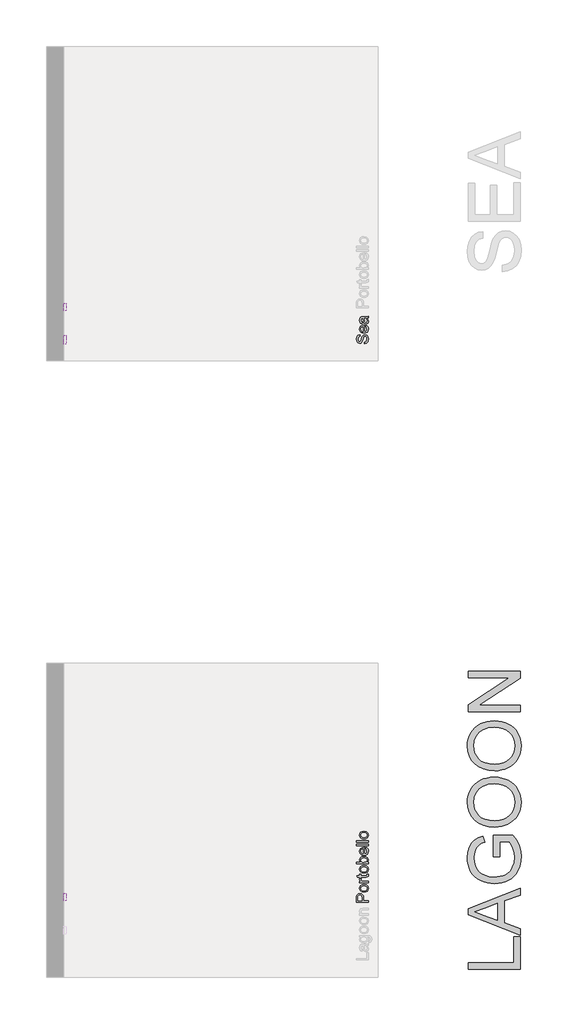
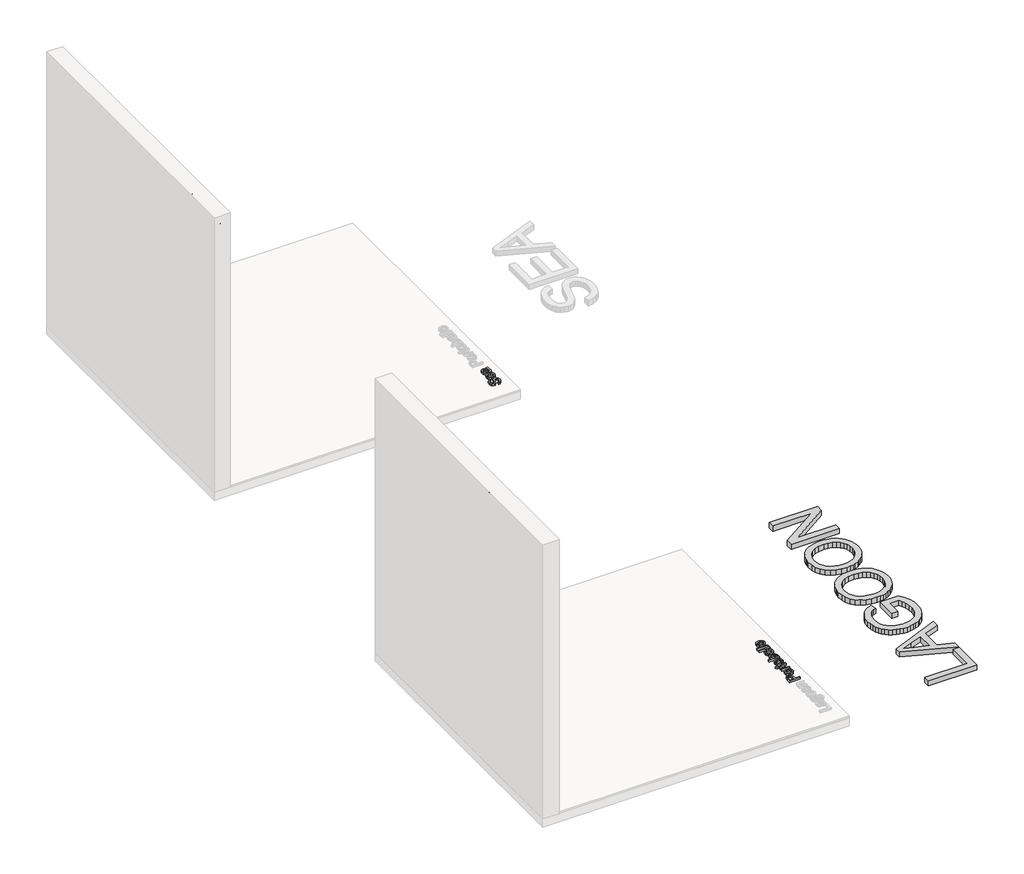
# One storey, part 6 of 7: 6 proxies.
"""IFC4 building model written with IfcOpenShell, lengths in millimetres."""

from ifc_helpers import new_model, si_unit, frame, origin, origin_with_axes, place, context, project, spatial, polyline, outline, extrude, element, save

model = new_model("IFC4")

# Units and contexts
model_context = context("Model", 3, world=origin())
ifc_project = project(units=[si_unit("LENGTHUNIT", "METRE", prefix="MILLI")], contexts=[model_context])

# Site, building, storey
site = spatial("IfcSite", under=ifc_project)
building = spatial("IfcBuilding", under=site)
storey = spatial("IfcBuildingStorey", under=building, Name="PORTOBELLO - SHOWROOM", Elevation=0.0)

# Proxies
placement = place(None, origin())
element("IfcBuildingElementProxy", 1, Name="10mm Arial", ObjectType="10mm Arial", at=placement, inside=storey, context=model_context, shape_type="SweptSolid", body=[
    extrude(outline(polyline([(8610.0316442, 2512.7580215), (8622.588683, 2512.7580215), (8626.635385, 2500.18872), (8636.5191479, 2492.2424689), (8651.5777842, 2489.2135739), (8664.6989087, 2491.506705), (8673.1724574, 2497.8097498), (8675.9560978, 2506.2342475), (8673.8714331, 2514.070134), (8665.3365709, 2519.7723049), (8647.0528357, 2524.5670336), (8627.371149, 2530.7597138), (8616.6903084, 2540.1039165), (8613.1709039, 2552.5873789), (8617.5241742, 2566.7998866), (8630.2406285, 2576.8308024), (8648.8554575, 2580.2521049), (8668.7210852, 2576.6713868), (8681.964837, 2566.1499618), (8686.9435067, 2550.4291379), (8674.3864679, 2550.4291379), (8672.0810741, 2557.9216678), (8667.2740827, 2563.3295332), (8649.3459668, 2567.6950662), (8631.3688, 2563.3785841), (8625.7279427, 2552.9552609), (8629.7255937, 2544.2487203), (8650.2288836, 2537.234437), (8672.4489561, 2530.9313921), (8684.6013247, 2520.7533236), (8688.5131365, 2506.5530786), (8684.0127135, 2491.5312304), (8671.0632672, 2480.568347), (8652.0682936, 2476.6565351), (8629.6397546, 2480.8749153), (8615.4517723, 2493.5791069), (8610.0316442, 2512.7580215)])), frame((74564.1689403, 0.0, 0.0), z_axis=(1.0, 0.0, 0.0), x_axis=(0.0, 1.0, 0.0)), (0.0, 0.0, 1.0), 20.0),
    extrude(outline(polyline([(8757.429697, 2500.2009828), (8769.7414811, 2498.6313529), (8765.3054374, 2489.3545953), (8758.2267746, 2482.4200197), (8748.6649084, 2478.0974062), (8736.7792543, 2476.6565351), (8722.0455804, 2479.1428042), (8710.7086836, 2486.6016117), (8703.4798024, 2498.5485795), (8701.0701753, 2514.4993297), (8703.5043279, 2530.9865744), (8710.8067855, 2543.3167526), (8721.9903981, 2551.0054863), (8736.0680158, 2553.5683975), (8749.7072408, 2551.0116177), (8760.6057449, 2543.3412781), (8767.7518526, 2531.0356253), (8770.1338885, 2514.5729061), (8770.0603121, 2511.1883917), (8713.6272141, 2511.1883917), (8715.8007835, 2501.7890067), (8720.8499639, 2494.8789566), (8728.1370931, 2490.6299195), (8737.024509, 2489.2135739), (8749.3362931, 2491.8377988), (8757.429697, 2500.2009828)]), holes=[polyline([(8713.6272141, 2523.7454305), (8757.5768498, 2523.7454305), (8752.5491292, 2535.1252469), (8745.2282775, 2539.5398308), (8736.0189649, 2541.0113588), (8720.5556583, 2536.314732), (8715.6904189, 2530.8240932), (8713.6272141, 2523.7454305)])]), frame((74564.1689403, 0.0, 0.0), z_axis=(1.0, 0.0, 0.0), x_axis=(0.0, 1.0, 0.0)), (0.0, 0.0, 1.0), 20.0),
    extrude(outline(polyline([(8829.7798227, 2487.643944), (8817.6029287, 2479.1336072), (8804.1507104, 2476.6565351), (8793.6568765, 2478.1464572), (8785.9160261, 2482.6162234), (8781.1427573, 2489.4036462), (8779.5516676, 2497.846538), (8781.9551633, 2507.7793519), (8788.2704709, 2514.989839), (8797.0628506, 2519.1101173), (8807.9276322, 2520.9985782), (8829.7062463, 2525.3150603), (8829.7798227, 2528.1109635), (8826.3217319, 2537.3815898), (8812.440318, 2541.0113588), (8799.7361264, 2538.5956003), (8793.6783362, 2530.0239499), (8781.1212975, 2531.5935797), (8786.5536883, 2543.8563129), (8797.4920463, 2551.0422745), (8814.0589988, 2553.5683975), (8829.2770506, 2551.3365801), (8837.8732266, 2545.732511), (8841.7237248, 2537.2099115), (8842.3368615, 2526.2225026), (8842.3368615, 2510.5997805), (8842.9745236, 2488.7843782), (8845.4761212, 2478.2261649), (8832.9190824, 2478.2261649), (8829.7798227, 2487.643944)]), holes=[polyline([(8829.7798227, 2512.7580215), (8809.5217875, 2508.9075233), (8798.7183196, 2506.8719096), (8793.825489, 2503.5609717), (8792.1087064, 2498.7294548), (8795.84884, 2491.9359006), (8806.8239862, 2489.2135739), (8819.5281778, 2492.2179435), (8827.7196835, 2499.4897443), (8829.7062463, 2509.2018289), (8829.7798227, 2512.7580215)])]), frame((74564.1689403, 0.0, 0.0), z_axis=(1.0, 0.0, 0.0), x_axis=(0.0, 1.0, 0.0)), (0.0, 0.0, 1.0), 20.0),
])
element("IfcBuildingElementProxy", 2, Name="10mm Arial", ObjectType="10mm Arial", at=placement, inside=storey, context=model_context, shape_type="SweptSolid", body=[
    extrude(outline(polyline([(77181.6975876, 3813.0326536), (77081.2412774, 3813.0326536), (77081.2412774, 3850.2623116), (77082.1977706, 3865.271897), (77086.8943974, 3877.4733165), (77096.6064821, 3885.3827794), (77110.303955, 3888.3748863), (77122.1436239, 3886.354601), (77132.0089927, 3880.2937451), (77138.6676569, 3868.959914), (77140.8872116, 3851.1207029), (77140.8872116, 3825.5896924), (77181.6975876, 3825.5896924), (77181.6975876, 3813.0326536)]), holes=[polyline([(77128.3301728, 3825.5896924), (77128.3301728, 3851.8564669), (77123.7193851, 3870.3486685), (77118.1704984, 3874.4505527), (77110.7454134, 3875.8178475), (77100.3466157, 3872.5927487), (77094.6567075, 3864.1192), (77093.7983162, 3851.5621613), (77093.7983162, 3825.5896924), (77128.3301728, 3825.5896924)])]), frame((0.0, 0.0, 15.0), z_axis=(0.0, 0.0, 1.0), x_axis=(1.0, 0.0, 0.0)), (0.0, 0.0, 1.0), 20.0),
    extrude(outline(polyline([(77144.8112862, 3900.931925), (77127.0241917, 3903.6481204), (77114.5223352, 3911.7967066), (77108.3971, 3921.8644106), (77106.355355, 3933.9186773), (77108.8416241, 3947.1103125), (77116.3004316, 3957.647066), (77128.1431661, 3964.5540504), (77143.7812166, 3966.8563786), (77166.1239164, 3962.7851512), (77178.7667943, 3950.9270882), (77183.2672174, 3933.9186773), (77180.7901453, 3920.5676265), (77173.358929, 3910.0431358), (77161.2678741, 3903.2097277), (77144.8112862, 3900.931925)]), holes=[polyline([(77144.7867607, 3913.4889638), (77156.1512487, 3914.9420977), (77164.2477183, 3919.3014993), (77169.0945635, 3925.8620616), (77170.7101786, 3933.9186773), (77169.0853665, 3941.9385048), (77164.2109301, 3948.4868043), (77156.0071616, 3952.8462059), (77144.3943533, 3954.2993398), (77133.3609591, 3952.8370089), (77125.3748541, 3948.4500161), (77120.5280088, 3941.8925195), (77118.9123937, 3933.9186773), (77120.5218774, 3925.8620616), (77125.3503286, 3919.3014993), (77133.4284041, 3914.9420977), (77144.7867607, 3913.4889638)])]), frame((0.0, 0.0, 15.0), z_axis=(0.0, 0.0, 1.0), x_axis=(1.0, 0.0, 0.0)), (0.0, 0.0, 1.0), 20.0),
    extrude(outline(polyline([(77181.6975876, 3980.9830472), (77107.9249848, 3980.9830472), (77107.9249848, 3991.9704561), (77118.8388173, 3991.9704561), (77108.7833761, 3999.7695544), (77106.355355, 4007.6177036), (77110.2303786, 4020.2237933), (77121.4875677, 4016.0299386), (77118.9123937, 4007.2007707), (77121.3894658, 4000.1006482), (77128.2565964, 3995.5756997), (77142.9228253, 3993.5400859), (77181.6975876, 3993.5400859), (77181.6975876, 3980.9830472)])), frame((0.0, 0.0, 15.0), z_axis=(0.0, 0.0, 1.0), x_axis=(1.0, 0.0, 0.0)), (0.0, 0.0, 1.0), 20.0),
    extrude(outline(polyline([(77171.2252134, 4054.7556499), (77182.0654696, 4056.3252798), (77183.2672174, 4046.9320262), (77181.1825528, 4036.4106011), (77175.7133738, 4031.1621513), (77161.4640778, 4029.6415724), (77120.4820236, 4029.6415724), (77120.4820236, 4020.2237933), (77110.2303786, 4020.2237933), (77107.9249848, 4020.2237933), (77107.9249848, 4029.6415724), (77089.9968689, 4029.6415724), (77082.6147035, 4042.1986112), (77107.9249848, 4042.1986112), (77107.9249848, 4054.7556499), (77120.4820236, 4054.7556499), (77120.4820236, 4042.1986112), (77161.0961958, 4042.1986112), (77167.5709189, 4042.8607988), (77169.8640501, 4045.0067771), (77170.7101786, 4049.286471), (77171.2252134, 4054.7556499)])), frame((0.0, 0.0, 15.0), z_axis=(0.0, 0.0, 1.0), x_axis=(1.0, 0.0, 0.0)), (0.0, 0.0, 1.0), 20.0),
    extrude(outline(polyline([(77144.8112862, 4064.173429), (77127.0241917, 4066.8896244), (77114.5223352, 4075.0382106), (77108.3971, 4085.1059145), (77106.355355, 4097.1601813), (77108.8416241, 4110.3518165), (77116.3004316, 4120.8885699), (77128.1431661, 4127.7955544), (77143.7812166, 4130.0978826), (77166.1239164, 4126.0266551), (77178.7667943, 4114.1685922), (77183.2672174, 4097.1601813), (77180.7901453, 4083.8091305), (77173.358929, 4073.2846398), (77161.2678741, 4066.4512317), (77144.8112862, 4064.173429)]), holes=[polyline([(77144.7867607, 4076.7304678), (77156.1512487, 4078.1836017), (77164.2477183, 4082.5430033), (77169.0945635, 4089.1035656), (77170.7101786, 4097.1601813), (77169.0853665, 4105.1800088), (77164.2109301, 4111.7283083), (77156.0071616, 4116.0877099), (77144.3943533, 4117.5408438), (77133.3609591, 4116.0785129), (77125.3748541, 4111.6915201), (77120.5280088, 4105.1340235), (77118.9123937, 4097.1601813), (77120.5218774, 4089.1035656), (77125.3503286, 4082.5430033), (77133.4284041, 4078.1836017), (77144.7867607, 4076.7304678)])]), frame((0.0, 0.0, 15.0), z_axis=(0.0, 0.0, 1.0), x_axis=(1.0, 0.0, 0.0)), (0.0, 0.0, 1.0), 20.0),
    extrude(outline(polyline([(77181.6975876, 4156.7815899), (77181.6975876, 4144.2245512), (77081.2412774, 4144.2245512), (77081.2412774, 4156.7815899), (77118.4954608, 4156.7815899), (77109.3903814, 4165.5739696), (77106.355355, 4176.5000649), (77109.0899444, 4189.0816291), (77116.7786781, 4198.8427647), (77128.734843, 4204.8392412), (77143.7076402, 4207.009745), (77160.4707964, 4204.7625992), (77172.9419961, 4198.0211616), (77180.6859121, 4188.1282016), (77183.2672174, 4176.4264885), (77179.9378854, 4165.2612699), (77169.9498892, 4156.7815899), (77181.6975876, 4156.7815899)]), holes=[polyline([(77144.2962514, 4156.7815899), (77161.8564853, 4160.2151552), (77168.4967553, 4166.7941116), (77170.7101786, 4175.347368), (77169.0792351, 4182.5946433), (77164.1864046, 4188.7873235), (77156.0623439, 4193.0363606), (77144.7377098, 4194.4527062), (77133.2475288, 4193.0946085), (77125.2154386, 4189.0203155), (77120.4881549, 4183.0207732), (77118.9123937, 4175.8869282), (77120.5433372, 4168.6396529), (77125.4361678, 4162.4469727), (77133.4130757, 4158.1979356), (77144.2962514, 4156.7815899)])]), frame((0.0, 0.0, 15.0), z_axis=(0.0, 0.0, 1.0), x_axis=(1.0, 0.0, 0.0)), (0.0, 0.0, 1.0), 20.0),
    extrude(outline(polyline([(77159.7227697, 4272.7870458), (77161.2923996, 4285.0988299), (77170.5691572, 4280.6627861), (77177.5037328, 4273.5841234), (77181.8263463, 4264.0222572), (77183.2672174, 4252.1366031), (77180.7809483, 4237.4029292), (77173.3221408, 4226.0660324), (77161.375173, 4218.8371512), (77145.4244228, 4216.4275241), (77128.9371781, 4218.8616766), (77116.6069999, 4226.1641342), (77108.9182662, 4237.3477469), (77106.355355, 4251.4253646), (77108.9121348, 4265.0645895), (77116.5824744, 4275.9630936), (77128.8881272, 4283.1092014), (77145.3508464, 4285.4912373), (77148.7353608, 4285.4176609), (77148.7353608, 4228.9845629), (77158.1347458, 4231.1581323), (77165.0447959, 4236.2073127), (77169.293833, 4243.4944419), (77170.7101786, 4252.3818578), (77168.0859537, 4264.6936419), (77159.7227697, 4272.7870458)]), holes=[polyline([(77136.178322, 4228.9845629), (77136.178322, 4272.9341986), (77124.7985056, 4267.906478), (77120.3839217, 4260.5856262), (77118.9123937, 4251.3763136), (77123.6090205, 4235.9130071), (77129.0996593, 4231.0477677), (77136.178322, 4228.9845629)])]), frame((0.0, 0.0, 15.0), z_axis=(0.0, 0.0, 1.0), x_axis=(1.0, 0.0, 0.0)), (0.0, 0.0, 1.0), 20.0),
    extrude(outline(polyline([(77181.6975876, 4298.0482761), (77081.2412774, 4298.0482761), (77081.2412774, 4310.6053149), (77181.6975876, 4310.6053149), (77181.6975876, 4298.0482761)])), frame((0.0, 0.0, 15.0), z_axis=(0.0, 0.0, 1.0), x_axis=(1.0, 0.0, 0.0)), (0.0, 0.0, 1.0), 20.0),
    extrude(outline(polyline([(77181.6975876, 4329.440873), (77081.2412774, 4329.440873), (77081.2412774, 4341.9979118), (77181.6975876, 4341.9979118), (77181.6975876, 4329.440873)])), frame((0.0, 0.0, 15.0), z_axis=(0.0, 0.0, 1.0), x_axis=(1.0, 0.0, 0.0)), (0.0, 0.0, 1.0), 20.0),
    extrude(outline(polyline([(77144.8112862, 4357.6942102), (77127.0241917, 4360.4104056), (77114.5223352, 4368.5589918), (77108.3971, 4378.6266958), (77106.355355, 4390.6809625), (77108.8416241, 4403.8725977), (77116.3004316, 4414.4093512), (77128.1431661, 4421.3163356), (77143.7812166, 4423.6186638), (77166.1239164, 4419.5474364), (77178.7667943, 4407.6893734), (77183.2672174, 4390.6809625), (77180.7901453, 4377.3299117), (77173.358929, 4366.805421), (77161.2678741, 4359.9720129), (77144.8112862, 4357.6942102)]), holes=[polyline([(77144.7867607, 4370.251249), (77156.1512487, 4371.7043829), (77164.2477183, 4376.0637845), (77169.0945635, 4382.6243468), (77170.7101786, 4390.6809625), (77169.0853665, 4398.70079), (77164.2109301, 4405.2490895), (77156.0071616, 4409.6084911), (77144.3943533, 4411.061625), (77133.3609591, 4409.5992941), (77125.3748541, 4405.2123013), (77120.5280088, 4398.6548047), (77118.9123937, 4390.6809625), (77120.5218774, 4382.6243468), (77125.3503286, 4376.0637845), (77133.4284041, 4371.7043829), (77144.7867607, 4370.251249)])]), frame((0.0, 0.0, 15.0), z_axis=(0.0, 0.0, 1.0), x_axis=(1.0, 0.0, 0.0)), (0.0, 0.0, 1.0), 20.0),
])
element("IfcBuildingElementProxy", 3, Name="10mm Arial", ObjectType="10mm Arial", at=placement, inside=storey, context=model_context, shape_type="SweptSolid", body=[
    extrude(outline(polyline([(77147.1657309, 8613.3237641), (77147.1657309, 8625.8808029), (77159.7350325, 8629.9275048), (77167.6812835, 8639.8112678), (77170.7101786, 8654.8699041), (77168.4170475, 8667.9910286), (77162.1140027, 8676.4645772), (77153.689505, 8679.2482176), (77145.8536185, 8677.163553), (77140.1514476, 8668.6286907), (77135.3567189, 8650.3449556), (77129.1640387, 8630.6632688), (77119.819836, 8619.9824282), (77107.3363736, 8616.4630238), (77093.1238659, 8620.8162941), (77083.0929501, 8633.5327484), (77079.6716476, 8652.1475773), (77083.2523657, 8672.0132051), (77093.7737907, 8685.2569569), (77109.4946146, 8690.2356266), (77109.4946146, 8677.6785878), (77102.0020847, 8675.373194), (77096.5942193, 8670.5662026), (77092.2286863, 8652.6380867), (77096.5451684, 8634.6609198), (77106.9684916, 8629.0200626), (77115.6750322, 8633.0177136), (77122.6893155, 8653.5210034), (77128.9923604, 8675.741076), (77139.1704289, 8687.8934445), (77153.3706739, 8691.8052564), (77168.3925221, 8687.3048333), (77179.3554055, 8674.3553871), (77183.2672174, 8655.3604134), (77179.0488372, 8632.9318745), (77166.3446456, 8618.7438922), (77147.1657309, 8613.3237641)])), frame((0.0, 0.0, 15.0), z_axis=(0.0, 0.0, 1.0), x_axis=(1.0, 0.0, 0.0)), (0.0, 0.0, 1.0), 20.0),
    extrude(outline(polyline([(77159.7227697, 8760.7218168), (77161.2923996, 8773.0336009), (77170.5691572, 8768.5975572), (77177.5037328, 8761.5188945), (77181.8263463, 8751.9570283), (77183.2672174, 8740.0713742), (77180.7809483, 8725.3377003), (77173.3221408, 8714.0008035), (77161.375173, 8706.7719223), (77145.4244228, 8704.3622952), (77128.9371781, 8706.7964477), (77116.6069999, 8714.0989053), (77108.9182662, 8725.282518), (77106.355355, 8739.3601357), (77108.9121348, 8752.9993606), (77116.5824744, 8763.8978647), (77128.8881272, 8771.0439725), (77145.3508464, 8773.4260084), (77148.7353608, 8773.352432), (77148.7353608, 8716.919334), (77158.1347458, 8719.0929034), (77165.0447959, 8724.1420838), (77169.293833, 8731.429213), (77170.7101786, 8740.3166288), (77168.0859537, 8752.628413), (77159.7227697, 8760.7218168)]), holes=[polyline([(77136.178322, 8716.919334), (77136.178322, 8760.8689696), (77124.7985056, 8755.841249), (77120.3839217, 8748.5203973), (77118.9123937, 8739.3110847), (77123.6090205, 8723.8477782), (77129.0996593, 8718.9825388), (77136.178322, 8716.919334)])]), frame((0.0, 0.0, 15.0), z_axis=(0.0, 0.0, 1.0), x_axis=(1.0, 0.0, 0.0)), (0.0, 0.0, 1.0), 20.0),
    extrude(outline(polyline([(77172.2798085, 8833.0719426), (77180.7901453, 8820.8950485), (77183.2672174, 8807.4428302), (77181.7772953, 8796.9489963), (77177.3075291, 8789.208146), (77170.5201063, 8784.4348771), (77162.0772145, 8782.8437875), (77152.1444006, 8785.2472832), (77144.9339135, 8791.5625908), (77140.8136352, 8800.3549705), (77138.9251743, 8811.219752), (77134.6086922, 8832.9983662), (77131.812789, 8833.0719426), (77122.5421627, 8829.6138518), (77118.9123937, 8815.7324379), (77121.3281522, 8803.0282463), (77129.8998026, 8796.9704561), (77128.3301728, 8784.4134173), (77116.0674396, 8789.8458081), (77108.881478, 8800.7841661), (77106.355355, 8817.3511186), (77108.5871724, 8832.5691705), (77114.1912414, 8841.1653465), (77122.713841, 8845.0158447), (77133.7012499, 8845.6289813), (77149.323972, 8845.6289813), (77171.1393743, 8846.2666435), (77181.6975876, 8848.768241), (77181.6975876, 8836.2112023), (77172.2798085, 8833.0719426)]), holes=[polyline([(77147.1657309, 8833.0719426), (77151.0162292, 8812.8139074), (77153.0518429, 8802.0104394), (77156.3627808, 8797.1176089), (77161.1942977, 8795.4008263), (77167.9878519, 8799.1409599), (77170.7101786, 8810.1161061), (77167.705809, 8822.8202976), (77160.4340082, 8831.0118034), (77150.7219236, 8832.9983662), (77147.1657309, 8833.0719426)])]), frame((0.0, 0.0, 15.0), z_axis=(0.0, 0.0, 1.0), x_axis=(1.0, 0.0, 0.0)), (0.0, 0.0, 1.0), 20.0),
])
element("IfcBuildingElementProxy", 4, Name="10mm Arial Narrow", ObjectType="10mm Arial Narrow", at=placement, inside=storey, context=model_context, shape_type="SweptSolid", body=[
    extrude(outline(polyline([(8896.8755929, 2478.2261649), (8896.8755929, 2578.9447687), (8928.1724776, 2578.9447687), (8944.4681791, 2577.066448), (8955.9411652, 2567.5860048), (8960.2308437, 2550.566896), (8958.4445353, 2538.4910704), (8953.08561, 2528.8646766), (8943.3418212, 2522.5634182), (8928.400922, 2520.4629988), (8906.6225546, 2520.4629988), (8906.6225546, 2478.2261649), (8896.8755929, 2478.2261649)]), holes=[polyline([(8906.6225546, 2531.834454), (8929.5939095, 2531.834454), (8945.4581049, 2536.3652682), (8950.483882, 2550.033859), (8948.0090675, 2560.1996354), (8942.0314387, 2565.9995852), (8929.3654651, 2567.5733134), (8906.6225546, 2567.5733134), (8906.6225546, 2531.834454)])]), frame((74564.1689403, 0.0, 0.0), z_axis=(1.0, 0.0, 0.0), x_axis=(0.0, 1.0, 0.0)), (0.0, 0.0, 1.0), 20.0),
    extrude(outline(polyline([(8968.3533117, 2514.7772711), (8970.3077806, 2531.3680467), (8976.1711872, 2543.3201315), (8985.0297539, 2550.5446861), (8995.969703, 2552.9528709), (9006.7827386, 2550.5446861), (9015.6666881, 2543.3201315), (9021.6062428, 2531.558417), (9023.5860944, 2515.5387525), (9021.641144, 2498.3768659), (9015.806293, 2486.2344108), (9006.9572448, 2479.0098562), (8995.969703, 2476.6016713), (8985.1090749, 2479.0162019), (8976.234644, 2486.2597935), (8970.3236448, 2498.218224), (8968.3533117, 2514.7772711)]), holes=[polyline([(8978.1002734, 2514.8026538), (8979.4043102, 2502.2509024), (8983.3164208, 2493.3796444), (8989.1576175, 2488.1063858), (8996.2489129, 2486.348633), (9002.9689861, 2488.12225), (9008.6610594, 2493.4431012), (9012.5446144, 2502.3302234), (9013.8391327, 2514.8026538), (9012.5350959, 2527.3163312), (9008.6229853, 2536.1748979), (9002.7817886, 2541.4481564), (8995.6904932, 2543.2059093), (8988.9228275, 2541.4386379), (8983.2402727, 2536.1368238), (8979.3852732, 2527.2687386), (8978.1002734, 2514.8026538)])]), frame((74564.1689403, 0.0, 0.0), z_axis=(1.0, 0.0, 0.0), x_axis=(0.0, 1.0, 0.0)), (0.0, 0.0, 1.0), 20.0),
    extrude(outline(polyline([(9095.0638132, 2486.348633), (9096.6883068, 2476.6016713), (9089.3273201, 2476.6016713), (9081.0525558, 2478.7211278), (9076.7374947, 2484.5210777), (9075.5698899, 2499.1669029), (9075.5698899, 2541.5814157), (9067.4474218, 2541.5814157), (9067.4474218, 2544.8304029), (9065.8229282, 2539.9569221), (9058.2588799, 2541.5814157), (9052.1797202, 2539.2588975), (9048.3088565, 2532.7736144), (9046.3290049, 2517.3663078), (9046.3290049, 2478.2261649), (9036.5820433, 2478.2261649), (9036.5820433, 2551.3283773), (9046.3290049, 2551.3283773), (9046.3290049, 2541.6321811), (9052.5731522, 2550.7191922), (9058.9695958, 2552.9528709), (9067.4474218, 2551.3283773), (9075.5698899, 2551.3283773), (9075.5698899, 2567.5733134), (9085.3168515, 2575.6957815), (9085.3168515, 2551.3283773), (9095.0638132, 2551.3283773), (9095.0638132, 2541.5814157), (9085.3168515, 2541.5814157), (9085.3168515, 2496.9332241), (9086.1798638, 2488.9376697), (9090.7995175, 2486.348633), (9095.0638132, 2486.348633)])), frame((74564.1689403, 0.0, 0.0), z_axis=(1.0, 0.0, 0.0), x_axis=(0.0, 1.0, 0.0)), (0.0, 0.0, 1.0), 20.0),
    extrude(outline(polyline([(9101.5617876, 2514.7772711), (9103.5162565, 2531.3680467), (9109.3796631, 2543.3201315), (9118.2382298, 2550.5446861), (9129.178179, 2552.9528709), (9139.9912146, 2550.5446861), (9148.875164, 2543.3201315), (9154.8147187, 2531.558417), (9156.7945703, 2515.5387525), (9154.84962, 2498.3768659), (9149.0147689, 2486.2344108), (9140.1657207, 2479.0098562), (9129.178179, 2476.6016713), (9118.3175508, 2479.0162019), (9109.4431199, 2486.2597935), (9103.5321207, 2498.218224), (9101.5617876, 2514.7772711)]), holes=[polyline([(9111.3087493, 2514.8026538), (9112.6127861, 2502.2509024), (9116.5248967, 2493.3796444), (9122.3660935, 2488.1063858), (9129.4573888, 2486.348633), (9136.177462, 2488.12225), (9141.8695353, 2493.4431012), (9145.7530903, 2502.3302234), (9147.0476087, 2514.8026538), (9145.7435718, 2527.3163312), (9141.8314612, 2536.1748979), (9135.9902645, 2541.4481564), (9128.8989691, 2543.2059093), (9122.1313034, 2541.4386379), (9116.4487486, 2536.1368238), (9112.5937491, 2527.2687386), (9111.3087493, 2514.8026538)])]), frame((74564.1689403, 0.0, 0.0), z_axis=(1.0, 0.0, 0.0), x_axis=(0.0, 1.0, 0.0)), (0.0, 0.0, 1.0), 20.0),
    extrude(outline(polyline([(9179.5374809, 2478.2261649), (9169.7905192, 2478.2261649), (9169.7905192, 2578.9447687), (9179.5374809, 2578.9447687), (9179.5374809, 2543.5358846), (9186.9365416, 2550.6176614), (9196.1377749, 2552.9528709), (9209.0195016, 2548.752032), (9218.2968831, 2536.0226016), (9221.7743147, 2515.3356908), (9219.8420557, 2498.8813473), (9214.0452787, 2486.6786082), (9205.6721564, 2479.1209056), (9196.0108614, 2476.6016713), (9186.6700231, 2479.2160907), (9179.5374809, 2486.9832008), (9179.5374809, 2478.2261649)]), holes=[polyline([(9179.5374809, 2515.3356908), (9181.6188633, 2498.0881376), (9187.5076526, 2489.3564844), (9195.9600959, 2486.348633), (9201.9028235, 2488.1381142), (9207.1411809, 2493.5065579), (9212.027353, 2514.9295674), (9207.3188598, 2536.3652682), (9202.0741568, 2541.495749), (9195.7570342, 2543.2059093), (9189.7794054, 2541.416428), (9184.4871098, 2536.0479843), (9179.5374809, 2515.3356908)])]), frame((74564.1689403, 0.0, 0.0), z_axis=(1.0, 0.0, 0.0), x_axis=(0.0, 1.0, 0.0)), (0.0, 0.0, 1.0), 20.0),
    extrude(outline(polyline([(9273.7581102, 2500.9690755), (9283.5050718, 2499.3445818), (9279.8055415, 2489.4580153), (9273.9865546, 2482.3381644), (9266.2829013, 2478.0357946), (9256.9293717, 2476.6016713), (9245.3358177, 2479.0162019), (9236.1916955, 2486.2597935), (9230.2521407, 2498.0659277), (9228.2722891, 2514.168086), (9230.2616592, 2530.8350097), (9236.2297695, 2543.0155389), (9245.2438054, 2550.4685379), (9256.370952, 2552.9528709), (9267.0539012, 2550.5542046), (9275.8014185, 2543.3582056), (9281.6362696, 2531.618701), (9283.58122, 2515.5895179), (9283.5050718, 2512.3405307), (9238.0192508, 2512.3405307), (9244.0222623, 2492.8973728), (9249.9522986, 2487.9858179), (9257.0562853, 2486.348633), (9267.234753, 2490.0037436), (9273.7581102, 2500.9690755)]), holes=[polyline([(9238.6792013, 2522.0874924), (9273.7581102, 2522.0874924), (9269.4938145, 2536.3525769), (9263.6684819, 2541.4925762), (9256.4471002, 2543.2059093), (9244.2380154, 2537.4947989), (9238.6792013, 2522.0874924)])]), frame((74564.1689403, 0.0, 0.0), z_axis=(1.0, 0.0, 0.0), x_axis=(0.0, 1.0, 0.0)), (0.0, 0.0, 1.0), 20.0),
    extrude(outline(polyline([(74584.1689403, 9306.2479824), (74584.1689403, 9296.5010207), (74564.1689403, 9296.5010207), (74564.1689403, 9306.2479824), (74584.1689403, 9306.2479824)])), frame((0.0, 0.0, 2478.2261649), z_axis=(0.0, 0.0, 1.0), x_axis=(1.0, 0.0, 0.0)), (0.0, 0.0, 1.0), 100.7186038),
    extrude(outline(polyline([(74584.1689403, 9332.2398801), (74584.1689403, 9322.4929184), (74564.1689403, 9322.4929184), (74564.1689403, 9332.2398801), (74584.1689403, 9332.2398801)])), frame((0.0, 0.0, 2478.2261649), z_axis=(0.0, 0.0, 1.0), x_axis=(1.0, 0.0, 0.0)), (0.0, 0.0, 1.0), 100.7186038),
    extrude(outline(polyline([(9343.6113354, 2514.7772711), (9345.5658042, 2531.3680467), (9351.4292109, 2543.3201315), (9360.2877776, 2550.5446861), (9371.2277267, 2552.9528709), (9382.0407623, 2550.5446861), (9390.9247117, 2543.3201315), (9396.8642665, 2531.558417), (9398.8441181, 2515.5387525), (9396.8991677, 2498.3768659), (9391.0643166, 2486.2344108), (9382.2152684, 2479.0098562), (9371.2277267, 2476.6016713), (9360.3670985, 2479.0162019), (9351.4926676, 2486.2597935), (9345.5816684, 2498.218224), (9343.6113354, 2514.7772711)]), holes=[polyline([(9353.358297, 2514.8026538), (9354.6623339, 2502.2509024), (9358.5744445, 2493.3796444), (9364.4156412, 2488.1063858), (9371.5069365, 2486.348633), (9378.2270097, 2488.12225), (9383.919083, 2493.4431012), (9387.8026381, 2502.3302234), (9389.0971564, 2514.8026538), (9387.7931195, 2527.3163312), (9383.881009, 2536.1748979), (9378.0398122, 2541.4481564), (9370.9485169, 2543.2059093), (9364.1808511, 2541.4386379), (9358.4982963, 2536.1368238), (9354.6432968, 2527.2687386), (9353.358297, 2514.8026538)])]), frame((74564.1689403, 0.0, 0.0), z_axis=(1.0, 0.0, 0.0), x_axis=(0.0, 1.0, 0.0)), (0.0, 0.0, 1.0), 20.0),
])
element("IfcBuildingElementProxy", 5, Name="10mm Arial Narrow", ObjectType="10mm Arial Narrow", at=placement, inside=storey, context=model_context, shape_type="SweptSolid", body=[
    extrude(outline(polyline([(3826.8755929, 2478.2261649), (3826.8755929, 2578.9447687), (3858.1724776, 2578.9447687), (3874.4681791, 2577.066448), (3885.9411652, 2567.5860048), (3890.2308437, 2550.566896), (3888.4445353, 2538.4910704), (3883.08561, 2528.8646766), (3873.3418212, 2522.5634182), (3858.400922, 2520.4629988), (3836.6225546, 2520.4629988), (3836.6225546, 2478.2261649), (3826.8755929, 2478.2261649)]), holes=[polyline([(3836.6225546, 2531.834454), (3859.5939095, 2531.834454), (3875.4581049, 2536.3652682), (3880.483882, 2550.033859), (3878.0090675, 2560.1996354), (3872.0314387, 2565.9995852), (3859.3654651, 2567.5733134), (3836.6225546, 2567.5733134), (3836.6225546, 2531.834454)])]), frame((74564.1689403, 0.0, 0.0), z_axis=(1.0, 0.0, 0.0), x_axis=(0.0, 1.0, 0.0)), (0.0, 0.0, 1.0), 20.0),
    extrude(outline(polyline([(3898.3533117, 2514.7772711), (3900.3077806, 2531.3680467), (3906.1711872, 2543.3201315), (3915.0297539, 2550.5446861), (3925.969703, 2552.9528709), (3936.7827386, 2550.5446861), (3945.6666881, 2543.3201315), (3951.6062428, 2531.558417), (3953.5860944, 2515.5387525), (3951.641144, 2498.3768659), (3945.806293, 2486.2344108), (3936.9572448, 2479.0098562), (3925.969703, 2476.6016713), (3915.1090749, 2479.0162019), (3906.234644, 2486.2597935), (3900.3236448, 2498.218224), (3898.3533117, 2514.7772711)]), holes=[polyline([(3908.1002734, 2514.8026538), (3909.4043102, 2502.2509024), (3913.3164208, 2493.3796444), (3919.1576175, 2488.1063858), (3926.2489129, 2486.348633), (3932.9689861, 2488.12225), (3938.6610594, 2493.4431012), (3942.5446144, 2502.3302234), (3943.8391327, 2514.8026538), (3942.5350959, 2527.3163312), (3938.6229853, 2536.1748979), (3932.7817886, 2541.4481564), (3925.6904932, 2543.2059093), (3918.9228275, 2541.4386379), (3913.2402727, 2536.1368238), (3909.3852732, 2527.2687386), (3908.1002734, 2514.8026538)])]), frame((74564.1689403, 0.0, 0.0), z_axis=(1.0, 0.0, 0.0), x_axis=(0.0, 1.0, 0.0)), (0.0, 0.0, 1.0), 20.0),
    extrude(outline(polyline([(4025.0638132, 2486.348633), (4026.6883068, 2476.6016713), (4019.3273201, 2476.6016713), (4011.0525558, 2478.7211278), (4006.7374947, 2484.5210777), (4005.5698899, 2499.1669029), (4005.5698899, 2541.5814157), (3997.4474218, 2541.5814157), (3997.4474218, 2544.8304029), (3995.8229282, 2539.9569221), (3988.2588799, 2541.5814157), (3982.1797202, 2539.2588975), (3978.3088565, 2532.7736144), (3976.3290049, 2517.3663078), (3976.3290049, 2478.2261649), (3966.5820433, 2478.2261649), (3966.5820433, 2551.3283773), (3976.3290049, 2551.3283773), (3976.3290049, 2541.6321811), (3982.5731522, 2550.7191922), (3988.9695958, 2552.9528709), (3997.4474218, 2551.3283773), (4005.5698899, 2551.3283773), (4005.5698899, 2567.5733134), (4015.3168515, 2575.6957815), (4015.3168515, 2551.3283773), (4025.0638132, 2551.3283773), (4025.0638132, 2541.5814157), (4015.3168515, 2541.5814157), (4015.3168515, 2496.9332241), (4016.1798638, 2488.9376697), (4020.7995175, 2486.348633), (4025.0638132, 2486.348633)])), frame((74564.1689403, 0.0, 0.0), z_axis=(1.0, 0.0, 0.0), x_axis=(0.0, 1.0, 0.0)), (0.0, 0.0, 1.0), 20.0),
    extrude(outline(polyline([(4031.5617876, 2514.7772711), (4033.5162565, 2531.3680467), (4039.3796631, 2543.3201315), (4048.2382298, 2550.5446861), (4059.178179, 2552.9528709), (4069.9912146, 2550.5446861), (4078.875164, 2543.3201315), (4084.8147187, 2531.558417), (4086.7945703, 2515.5387525), (4084.84962, 2498.3768659), (4079.0147689, 2486.2344108), (4070.1657207, 2479.0098562), (4059.178179, 2476.6016713), (4048.3175508, 2479.0162019), (4039.4431199, 2486.2597935), (4033.5321207, 2498.218224), (4031.5617876, 2514.7772711)]), holes=[polyline([(4041.3087493, 2514.8026538), (4042.6127861, 2502.2509024), (4046.5248967, 2493.3796444), (4052.3660935, 2488.1063858), (4059.4573888, 2486.348633), (4066.177462, 2488.12225), (4071.8695353, 2493.4431012), (4075.7530903, 2502.3302234), (4077.0476087, 2514.8026538), (4075.7435718, 2527.3163312), (4071.8314612, 2536.1748979), (4065.9902645, 2541.4481564), (4058.8989691, 2543.2059093), (4052.1313034, 2541.4386379), (4046.4487486, 2536.1368238), (4042.5937491, 2527.2687386), (4041.3087493, 2514.8026538)])]), frame((74564.1689403, 0.0, 0.0), z_axis=(1.0, 0.0, 0.0), x_axis=(0.0, 1.0, 0.0)), (0.0, 0.0, 1.0), 20.0),
    extrude(outline(polyline([(4109.5374809, 2478.2261649), (4099.7905192, 2478.2261649), (4099.7905192, 2578.9447687), (4109.5374809, 2578.9447687), (4109.5374809, 2543.5358846), (4116.9365416, 2550.6176614), (4126.1377749, 2552.9528709), (4139.0195016, 2548.752032), (4148.2968831, 2536.0226016), (4151.7743147, 2515.3356908), (4149.8420557, 2498.8813473), (4144.0452787, 2486.6786082), (4135.6721564, 2479.1209056), (4126.0108614, 2476.6016713), (4116.6700231, 2479.2160907), (4109.5374809, 2486.9832008), (4109.5374809, 2478.2261649)]), holes=[polyline([(4109.5374809, 2515.3356908), (4111.6188633, 2498.0881376), (4117.5076526, 2489.3564844), (4125.9600959, 2486.348633), (4131.9028235, 2488.1381142), (4137.1411809, 2493.5065579), (4142.027353, 2514.9295674), (4137.3188598, 2536.3652682), (4132.0741568, 2541.495749), (4125.7570342, 2543.2059093), (4119.7794054, 2541.416428), (4114.4871098, 2536.0479843), (4109.5374809, 2515.3356908)])]), frame((74564.1689403, 0.0, 0.0), z_axis=(1.0, 0.0, 0.0), x_axis=(0.0, 1.0, 0.0)), (0.0, 0.0, 1.0), 20.0),
    extrude(outline(polyline([(4203.7581102, 2500.9690755), (4213.5050718, 2499.3445818), (4209.8055415, 2489.4580153), (4203.9865546, 2482.3381644), (4196.2829013, 2478.0357946), (4186.9293717, 2476.6016713), (4175.3358177, 2479.0162019), (4166.1916955, 2486.2597935), (4160.2521407, 2498.0659277), (4158.2722891, 2514.168086), (4160.2616592, 2530.8350097), (4166.2297695, 2543.0155389), (4175.2438054, 2550.4685379), (4186.370952, 2552.9528709), (4197.0539012, 2550.5542046), (4205.8014185, 2543.3582056), (4211.6362696, 2531.618701), (4213.58122, 2515.5895179), (4213.5050718, 2512.3405307), (4168.0192508, 2512.3405307), (4174.0222623, 2492.8973728), (4179.9522986, 2487.9858179), (4187.0562853, 2486.348633), (4197.234753, 2490.0037436), (4203.7581102, 2500.9690755)]), holes=[polyline([(4168.6792013, 2522.0874924), (4203.7581102, 2522.0874924), (4199.4938145, 2536.3525769), (4193.6684819, 2541.4925762), (4186.4471002, 2543.2059093), (4174.2380154, 2537.4947989), (4168.6792013, 2522.0874924)])]), frame((74564.1689403, 0.0, 0.0), z_axis=(1.0, 0.0, 0.0), x_axis=(0.0, 1.0, 0.0)), (0.0, 0.0, 1.0), 20.0),
    extrude(outline(polyline([(74584.1689403, 4236.2479824), (74584.1689403, 4226.5010207), (74564.1689403, 4226.5010207), (74564.1689403, 4236.2479824), (74584.1689403, 4236.2479824)])), frame((0.0, 0.0, 2478.2261649), z_axis=(0.0, 0.0, 1.0), x_axis=(1.0, 0.0, 0.0)), (0.0, 0.0, 1.0), 100.7186038),
    extrude(outline(polyline([(74584.1689403, 4262.2398801), (74584.1689403, 4252.4929184), (74564.1689403, 4252.4929184), (74564.1689403, 4262.2398801), (74584.1689403, 4262.2398801)])), frame((0.0, 0.0, 2478.2261649), z_axis=(0.0, 0.0, 1.0), x_axis=(1.0, 0.0, 0.0)), (0.0, 0.0, 1.0), 100.7186038),
    extrude(outline(polyline([(4273.6113354, 2514.7772711), (4275.5658042, 2531.3680467), (4281.4292109, 2543.3201315), (4290.2877776, 2550.5446861), (4301.2277267, 2552.9528709), (4312.0407623, 2550.5446861), (4320.9247117, 2543.3201315), (4326.8642665, 2531.558417), (4328.8441181, 2515.5387525), (4326.8991677, 2498.3768659), (4321.0643166, 2486.2344108), (4312.2152684, 2479.0098562), (4301.2277267, 2476.6016713), (4290.3670985, 2479.0162019), (4281.4926676, 2486.2597935), (4275.5816684, 2498.218224), (4273.6113354, 2514.7772711)]), holes=[polyline([(4283.358297, 2514.8026538), (4284.6623339, 2502.2509024), (4288.5744445, 2493.3796444), (4294.4156412, 2488.1063858), (4301.5069365, 2486.348633), (4308.2270097, 2488.12225), (4313.919083, 2493.4431012), (4317.8026381, 2502.3302234), (4319.0971564, 2514.8026538), (4317.7931195, 2527.3163312), (4313.881009, 2536.1748979), (4308.0398122, 2541.4481564), (4300.9485169, 2543.2059093), (4294.1808511, 2541.4386379), (4288.4982963, 2536.1368238), (4284.6432968, 2527.2687386), (4283.358297, 2514.8026538)])]), frame((74564.1689403, 0.0, 0.0), z_axis=(1.0, 0.0, 0.0), x_axis=(0.0, 1.0, 0.0)), (0.0, 0.0, 1.0), 20.0),
])
element("IfcBuildingElementProxy", 6, Name="450mm Arial", ObjectType="450mm Arial", at=placement, inside=storey, context=model_context, shape_type="SweptSolid", body=[
    extrude(outline(polyline([(78490.4020212, 3237.0488385), (78040.7458784, 3237.0488385), (78040.7458784, 3293.2558563), (78434.1950033, 3293.2558563), (78434.1950033, 3518.0839277), (78490.4020212, 3518.0839277), (78490.4020212, 3237.0488385)])), origin_with_axes(), (0.0, 0.0, 1.0), 50.0),
    extrude(outline(polyline([(78490.4020212, 3528.9520816), (78040.7458784, 3708.441289), (78040.7458784, 3756.3050776), (78490.4020212, 3935.794285), (78490.4020212, 3876.4036665), (78349.8844765, 3824.9171599), (78349.8844765, 3639.7194273), (78490.4020212, 3588.3427), (78490.4020212, 3528.9520816)]), holes=[polyline([(78293.6774587, 3660.3579417), (78293.6774587, 3804.3884249), (78183.1296716, 3763.8798515), (78096.9528962, 3732.3731833), (78173.4690904, 3704.3794537), (78293.6774587, 3660.3579417)])]), origin_with_axes(), (0.0, 0.0, 1.0), 50.0),
    extrude(outline(polyline([(78314.7550904, 4206.6198964), (78258.5480725, 4206.6198964), (78258.5480725, 4389.2927044), (78426.6202294, 4389.2927044), (78457.4956665, 4344.9006872), (78479.6436467, 4299.1089834), (78492.9818355, 4252.0273725), (78497.4278984, 4203.7656338), (78495.6611373, 4171.4802184), (78490.3608539, 4140.7111301), (78481.5270483, 4111.4583688), (78469.1597205, 4083.7219345), (78453.444123, 4058.3972149), (78434.5655086, 4036.3795977), (78412.5238771, 4017.6690829), (78387.3192287, 4002.2656704), (78359.7577552, 3990.2345417), (78330.6456487, 3981.6408784), (78299.9829091, 3976.4846804), (78267.7695364, 3974.7659478), (78235.5527331, 3976.4778192), (78204.4405844, 3981.6134336), (78174.4330902, 3990.1727909), (78145.5302505, 4002.155891), (78119.0013889, 4017.3500367), (78096.1158288, 4035.5425303), (78076.8735703, 4056.7333719), (78061.2746134, 4080.9225616), (78049.2194705, 4107.5852168), (78040.6086542, 4136.1964551), (78035.4421644, 4166.7562766), (78033.7200011, 4199.2646812), (78037.7132243, 4245.5641143), (78049.6928939, 4287.1979259), (78068.7944976, 4322.2587), (78094.1535233, 4348.8390207), (78126.9912659, 4368.5032435), (78168.5290205, 4382.8157239), (78183.1296716, 4330.9998793), (78153.5029745, 4319.4318822), (78131.149158, 4305.3664053), (78114.2980306, 4286.7588086), (78101.1794005, 4261.5644519), (78092.7401144, 4231.5260823), (78089.927019, 4198.3864465), (78092.959673, 4159.5931752), (78102.0576351, 4126.4260946), (78116.0819448, 4099.0087065), (78133.8936413, 4077.4645126), (78154.573323, 4060.9290008), (78177.2015877, 4048.5376587), (78219.6312994, 4035.3641389), (78265.4641704, 4030.9729656), (78319.2148757, 4036.256096), (78342.5189695, 4042.8600089), (78363.442224, 4052.105487), (78381.9057354, 4063.8724591), (78397.8305997, 4078.0408541), (78411.2168169, 4094.610672), (78422.0643872, 4113.5819128), (78436.4317572, 4155.1745571), (78441.2208806, 4199.2646812), (78437.611885, 4238.1951767), (78426.7848984, 4276.1651031), (78411.8686317, 4309.1400698), (78395.9917959, 4333.0856866), (78314.7550904, 4333.0856866), (78314.7550904, 4206.6198964)])), origin_with_axes(), (0.0, 0.0, 1.0), 50.0),
    extrude(outline(polyline([(78271.5020337, 4459.5514767), (78218.759926, 4463.2976964), (78172.069404, 4474.5363555), (78131.4304676, 4493.267454), (78096.8431169, 4519.4909919), (78069.2267537, 4551.6357525), (78049.5007801, 4588.1305191), (78037.6651959, 4628.9752917), (78033.7200011, 4674.1700703), (78035.5725274, 4704.4211374), (78041.130106, 4733.1490163), (78050.3927371, 4760.3537069), (78063.3604207, 4786.0352093), (78079.6420678, 4809.4730967), (78098.8465897, 4829.946942), (78120.9739862, 4847.4567455), (78146.0242575, 4862.0025069), (78173.4279232, 4873.4332798), (78202.615503, 4881.5981176), (78233.586997, 4886.4970203), (78266.3424051, 4888.1299879), (78299.5300693, 4886.4112552), (78330.920097, 4881.2550572), (78360.5124881, 4872.6613939), (78388.3072427, 4860.6302653), (78413.5702114, 4845.4464114), (78435.567245, 4827.3945726), (78454.2983435, 4806.4747487), (78469.7635068, 4782.6869397), (78481.8666781, 4756.9677007), (78490.5118005, 4730.2535864), (78495.6988739, 4702.544597), (78497.4278984, 4673.8407323), (78495.5170519, 4643.0613522), (78489.7845124, 4613.9561068), (78480.23028, 4586.5249963), (78466.8543545, 4560.7680206), (78450.1747573, 4537.3575781), (78430.7095095, 4516.9660672), (78408.4586112, 4499.593488), (78383.4220624, 4485.2398404), (78356.60503, 4474.0011813), (78329.0126811, 4465.9735677), (78300.6450157, 4461.1569995), (78271.5020337, 4459.5514767)]), holes=[polyline([(78272.0509303, 4515.7584946), (78309.3141523, 4518.5681594), (78342.3920372, 4526.9971537), (78371.284585, 4541.0454775), (78395.9917959, 4560.7131309), (78415.7795204, 4584.621011), (78429.9136094, 4611.390015), (78438.3940628, 4641.0201427), (78441.2208806, 4673.5113943), (78438.3666179, 4706.5584038), (78429.8038301, 4736.5384532), (78415.5325169, 4763.4515424), (78395.5526786, 4787.2976717), (78370.3240159, 4806.8212397), (78340.3062299, 4820.7666454), (78305.4993205, 4829.1338889), (78265.9032878, 4831.92297), (78216.1458057, 4827.1475691), (78173.1397524, 4812.8213663), (78137.969199, 4789.3148669), (78111.7182163, 4756.9985761), (78095.3748183, 4718.0131909), (78089.927019, 4674.4994083), (78092.5514311, 4643.1368255), (78100.4246676, 4614.0384413), (78113.5467283, 4587.2042559), (78131.9176134, 4562.6342693), (78156.4224186, 4542.1261178), (78187.9462398, 4527.4774383), (78226.4890771, 4518.6882305), (78272.0509303, 4515.7584946)])]), origin_with_axes(), (0.0, 0.0, 1.0), 50.0),
    extrude(outline(polyline([(78271.5020337, 4944.3370057), (78218.759926, 4948.0832254), (78172.069404, 4959.3218845), (78131.4304676, 4978.052983), (78096.8431169, 5004.2765209), (78069.2267537, 5036.4212814), (78049.5007801, 5072.916048), (78037.6651959, 5113.7608206), (78033.7200011, 5158.9555993), (78035.5725274, 5189.2066664), (78041.130106, 5217.9345453), (78050.3927371, 5245.1392359), (78063.3604207, 5270.8207383), (78079.6420678, 5294.2586257), (78098.8465897, 5314.732471), (78120.9739862, 5332.2422744), (78146.0242575, 5346.7880359), (78173.4279232, 5358.2188088), (78202.615503, 5366.3836466), (78233.586997, 5371.2825493), (78266.3424051, 5372.9155168), (78299.5300693, 5371.1967842), (78330.920097, 5366.0405862), (78360.5124881, 5357.4469229), (78388.3072427, 5345.4157942), (78413.5702114, 5330.2319404), (78435.567245, 5312.1801016), (78454.2983435, 5291.2602777), (78469.7635068, 5267.4724687), (78481.8666781, 5241.7532296), (78490.5118005, 5215.0391154), (78495.6988739, 5187.3301259), (78497.4278984, 5158.6262613), (78495.5170519, 5127.8468811), (78489.7845124, 5098.7416358), (78480.23028, 5071.3105253), (78466.8543545, 5045.5535496), (78450.1747573, 5022.1431071), (78430.7095095, 5001.7515962), (78408.4586112, 4984.379017), (78383.4220624, 4970.0253694), (78356.60503, 4958.7867103), (78329.0126811, 4950.7590966), (78300.6450157, 4945.9425284), (78271.5020337, 4944.3370057)]), holes=[polyline([(78272.0509303, 5000.5440236), (78309.3141523, 5003.3536883), (78342.3920372, 5011.7826827), (78371.284585, 5025.8310065), (78395.9917959, 5045.4986599), (78415.7795204, 5069.40654), (78429.9136094, 5096.1755439), (78438.3940628, 5125.8056717), (78441.2208806, 5158.2969233), (78438.3666179, 5191.3439327), (78429.8038301, 5221.3239821), (78415.5325169, 5248.2370714), (78395.5526786, 5272.0832006), (78370.3240159, 5291.6067687), (78340.3062299, 5305.5521744), (78305.4993205, 5313.9194178), (78265.9032878, 5316.708499), (78216.1458057, 5311.9330981), (78173.1397524, 5297.6068953), (78137.969199, 5274.1003959), (78111.7182163, 5241.7841051), (78095.3748183, 5202.7987199), (78089.927019, 5159.2849373), (78092.5514311, 5127.9223544), (78100.4246676, 5098.8239703), (78113.5467283, 5071.9897849), (78131.9176134, 5047.4197982), (78156.4224186, 5026.9116468), (78187.9462398, 5012.2629672), (78226.4890771, 5003.4737595), (78272.0509303, 5000.5440236)])]), origin_with_axes(), (0.0, 0.0, 1.0), 50.0),
    extrude(outline(polyline([(78490.4020212, 5450.2001664), (78040.7458784, 5450.2001664), (78040.7458784, 5510.3592402), (78396.9798099, 5745.2870101), (78040.7458784, 5745.2870101), (78040.7458784, 5801.494028), (78490.4020212, 5801.494028), (78490.4020212, 5741.3349542), (78134.0583103, 5506.4071842), (78490.4020212, 5506.4071842), (78490.4020212, 5450.2001664)])), origin_with_axes(), (0.0, 0.0, 1.0), 50.0),
])

save(model, "model.ifc")
